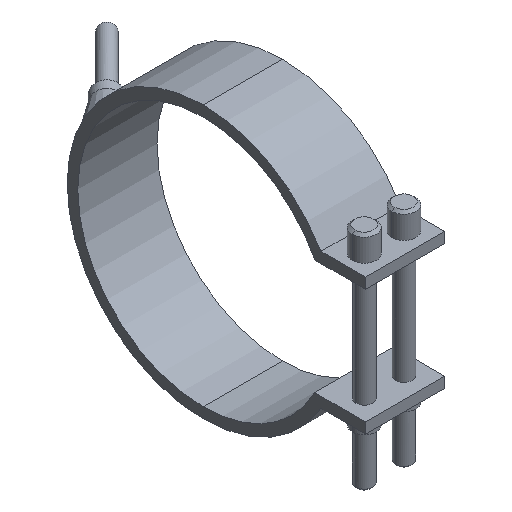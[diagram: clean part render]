
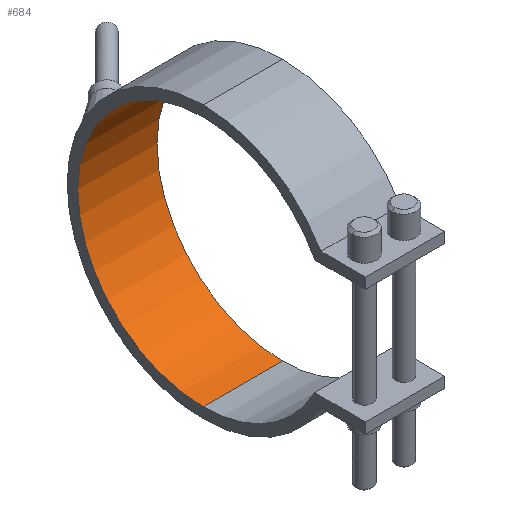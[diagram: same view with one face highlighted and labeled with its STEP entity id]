
A CAD part, isometric view. The second image highlights one B-rep face of the part: STEP entity #684.
In plain terms, the highlighted cylindrical face has radius 47.5 mm (diameter 95 mm), a partial arc.
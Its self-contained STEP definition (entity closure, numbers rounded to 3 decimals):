
#354=CARTESIAN_POINT('Vertex',(15.,0.,47.5)) ;
#359=CARTESIAN_POINT('Axis2P3D Location',(15.,0.,0.)) ;
#363=CARTESIAN_POINT('Vertex',(15.,0.,-47.5)) ;
#470=CARTESIAN_POINT('Vertex',(-15.,0.,-47.5)) ;
#473=CARTESIAN_POINT('Axis2P3D Location',(-15.,0.,0.)) ;
#477=CARTESIAN_POINT('Vertex',(-15.,0.,47.5)) ;
#656=CARTESIAN_POINT('Line Origine',(15.,0.,47.5)) ;
#668=CARTESIAN_POINT('Axis2P3D Location',(15.,0.,0.)) ;
#673=CARTESIAN_POINT('Line Origine',(15.,0.,-47.5)) ;
#360=DIRECTION('Axis2P3D Direction',(1.,0.,0.)) ;
#474=DIRECTION('Axis2P3D Direction',(1.,0.,0.)) ;
#657=DIRECTION('Vector Direction',(1.,0.,0.)) ;
#669=DIRECTION('Axis2P3D Direction',(1.,0.,-0.)) ;
#670=DIRECTION('Axis2P3D XDirection',(0.,0.,-1.)) ;
#674=DIRECTION('Vector Direction',(1.,0.,0.)) ;
#361=AXIS2_PLACEMENT_3D('Circle Axis2P3D',#359,#360,$) ;
#475=AXIS2_PLACEMENT_3D('Circle Axis2P3D',#473,#474,$) ;
#671=AXIS2_PLACEMENT_3D('Cylinder Axis2P3D',#668,#669,#670) ;
#679=ORIENTED_EDGE('',*,*,#365,.T.) ;
#680=ORIENTED_EDGE('',*,*,#660,.T.) ;
#681=ORIENTED_EDGE('',*,*,#479,.F.) ;
#682=ORIENTED_EDGE('',*,*,#677,.T.) ;
#658=VECTOR('Line Direction',#657,1.) ;
#675=VECTOR('Line Direction',#674,1.) ;
#684=ADVANCED_FACE('29095030',(#683),#672,.F.) ;
#362=CIRCLE('generated circle',#361,47.5) ;
#476=CIRCLE('generated circle',#475,47.5) ;
#672=CYLINDRICAL_SURFACE('generated cylinder',#671,47.5) ;
#365=EDGE_CURVE('',#364,#355,#362,.T.) ;
#479=EDGE_CURVE('',#471,#478,#476,.T.) ;
#660=EDGE_CURVE('',#355,#478,#659,.F.) ;
#677=EDGE_CURVE('',#471,#364,#676,.T.) ;
#678=EDGE_LOOP('',(#679,#680,#681,#682)) ;
#683=FACE_OUTER_BOUND('',#678,.T.) ;
#659=LINE('Line',#656,#658) ;
#676=LINE('Line',#673,#675) ;
#355=VERTEX_POINT('',#354) ;
#364=VERTEX_POINT('',#363) ;
#471=VERTEX_POINT('',#470) ;
#478=VERTEX_POINT('',#477) ;
